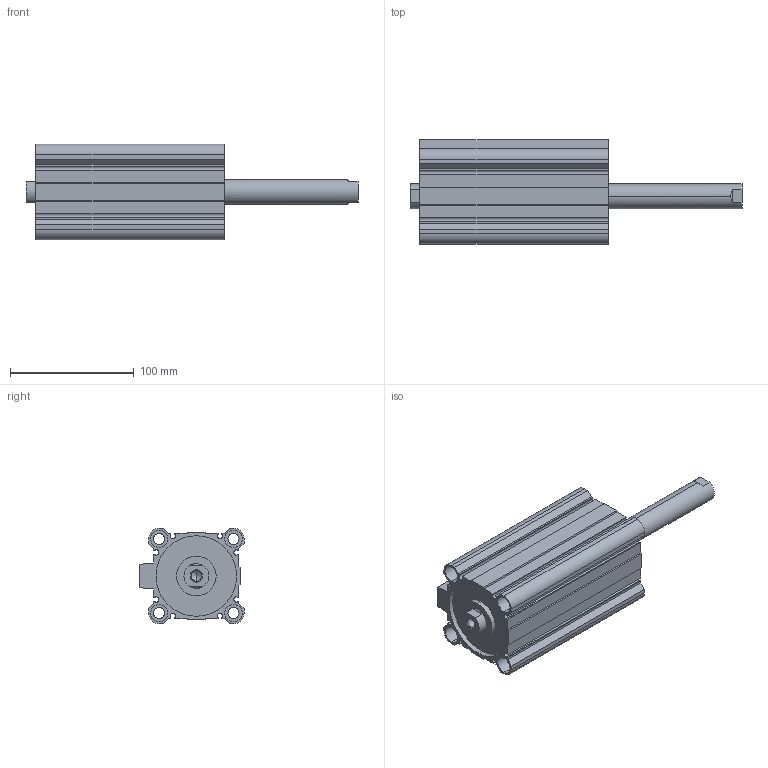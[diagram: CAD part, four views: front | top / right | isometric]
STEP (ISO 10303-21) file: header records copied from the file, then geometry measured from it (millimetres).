
FILE_DESCRIPTION (( 'STEP AP203' ), '1' );
FILE_NAME ('CCMB63-100F-P.STEP', '2020-08-05T11:48:28', ( '' ), ( '' ), 'SwSTEP 2.0', 'SolidWorks 2019', '' );
FILE_SCHEMA (( 'CONFIG_CONTROL_DESIGN' ));
Length unit declared in the file: millimetre
Products named in the file (1): CCMB63-100F-P
Bounding box: 268 x 84 x 77 mm (x, y, z)
Volume: 478550.9 mm3; surface area: 152565.5 mm2
Topology: 2 solids, 2 shells, 176 faces, 450 edges, 294 vertices
Faces by surface type: plane 90, cylinder 74, cone 12
Entity records: 5421 total; most frequent: DIRECTION 948, CARTESIAN_POINT 941, ORIENTED_EDGE 892, EDGE_CURVE 446, AXIS2_PLACEMENT_3D 333, VERTEX_POINT 294, VECTOR 282, LINE 282
